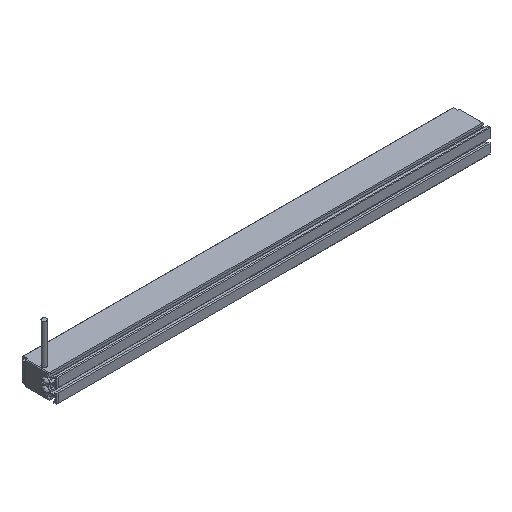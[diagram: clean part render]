
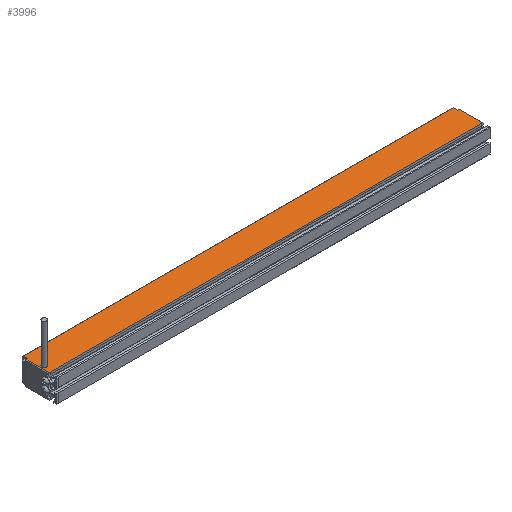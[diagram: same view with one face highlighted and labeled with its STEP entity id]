
A CAD part, isometric view. The second image highlights one B-rep face of the part: STEP entity #3996.
In plain terms, the highlighted planar face has unit normal (0, 0, 1) as drawn and (1, 0, 0) by its records, which use the part's own axes.
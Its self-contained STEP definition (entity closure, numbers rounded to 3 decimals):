
#332=DIRECTION('',(0.,1.,0.));
#333=VECTOR('',#332,17.499);
#334=CARTESIAN_POINT('',(9.,-4.3,-163.));
#335=LINE('',#334,#333);
#502=DIRECTION('',(0.,-1.,0.));
#503=VECTOR('',#502,3.203);
#504=CARTESIAN_POINT('',(9.,16.5,162.));
#505=LINE('',#504,#503);
#514=DIRECTION('',(0.,-1.,0.));
#515=VECTOR('',#514,0.1);
#516=CARTESIAN_POINT('',(9.,-4.2,162.));
#517=LINE('',#516,#515);
#991=DIRECTION('',(0.,0.,1.));
#992=VECTOR('',#991,1.);
#993=CARTESIAN_POINT('',(9.,13.297,162.));
#994=LINE('',#993,#992);
#995=CARTESIAN_POINT('',(9.,2.3,160.25));
#996=DIRECTION('',(1.,0.,0.));
#997=DIRECTION('',(0.,0.,-1.));
#998=AXIS2_PLACEMENT_3D('',#995,#996,#997);
#1000=CARTESIAN_POINT('',(9.,2.3,160.25));
#1001=DIRECTION('',(1.,0.,0.));
#1002=DIRECTION('',(0.,0.,1.));
#1003=AXIS2_PLACEMENT_3D('',#1000,#1001,#1002);
#1005=DIRECTION('',(0.,0.,-1.));
#1006=VECTOR('',#1005,324.);
#1007=CARTESIAN_POINT('',(9.,16.5,162.));
#1008=LINE('',#1007,#1006);
#1009=DIRECTION('',(0.,-1.,0.));
#1010=VECTOR('',#1009,3.301);
#1011=CARTESIAN_POINT('',(9.,16.5,-162.));
#1012=LINE('',#1011,#1010);
#1013=DIRECTION('',(0.,0.,-1.));
#1014=VECTOR('',#1013,1.);
#1015=CARTESIAN_POINT('',(9.,13.199,-162.));
#1016=LINE('',#1015,#1014);
#1017=DIRECTION('',(0.,0.,1.));
#1018=VECTOR('',#1017,325.);
#1019=CARTESIAN_POINT('',(9.,-4.3,-163.));
#1020=LINE('',#1019,#1018);
#1043=DIRECTION('',(0.,0.,-1.));
#1044=VECTOR('',#1043,1.);
#1045=CARTESIAN_POINT('',(9.,-4.2,163.));
#1046=LINE('',#1045,#1044);
#1739=DIRECTION('',(0.,-1.,0.));
#1740=VECTOR('',#1739,17.497);
#1741=CARTESIAN_POINT('',(9.,13.297,163.));
#1742=LINE('',#1741,#1740);
#2177=CARTESIAN_POINT('',(9.,16.5,-162.));
#2179=VERTEX_POINT('',#2177);
#2183=CARTESIAN_POINT('',(9.,-4.3,162.));
#2185=VERTEX_POINT('',#2183);
#2195=CARTESIAN_POINT('',(9.,16.5,162.));
#2196=VERTEX_POINT('',#2195);
#2197=CARTESIAN_POINT('',(9.,2.3,162.));
#2199=VERTEX_POINT('',#2197);
#2203=CARTESIAN_POINT('',(9.,2.3,158.5));
#2204=VERTEX_POINT('',#2203);
#2309=CARTESIAN_POINT('',(9.,13.199,-163.));
#2311=VERTEX_POINT('',#2309);
#2313=CARTESIAN_POINT('',(9.,-4.3,-163.));
#2314=VERTEX_POINT('',#2313);
#2353=CARTESIAN_POINT('',(9.,13.199,-162.));
#2355=VERTEX_POINT('',#2353);
#2514=CARTESIAN_POINT('',(9.,13.297,163.));
#2516=VERTEX_POINT('',#2514);
#2519=CARTESIAN_POINT('',(9.,-4.2,163.));
#2520=VERTEX_POINT('',#2519);
#2651=CARTESIAN_POINT('',(9.,13.297,162.));
#2652=VERTEX_POINT('',#2651);
#2653=CARTESIAN_POINT('',(9.,-4.2,162.));
#2655=VERTEX_POINT('',#2653);
#3969=CARTESIAN_POINT('',(9.,-4.3,-162.));
#3970=DIRECTION('',(1.,0.,0.));
#3971=DIRECTION('',(0.,1.,0.));
#3972=AXIS2_PLACEMENT_3D('',#3969,#3970,#3971);
#3973=PLANE('',#3972);
#3974=ORIENTED_EDGE('',*,*,#3445,.F.);
#3976=ORIENTED_EDGE('',*,*,#3975,.F.);
#3978=ORIENTED_EDGE('',*,*,#3977,.F.);
#3979=ORIENTED_EDGE('',*,*,#3959,.F.);
#3980=ORIENTED_EDGE('',*,*,#3431,.F.);
#3982=ORIENTED_EDGE('',*,*,#3981,.T.);
#3983=ORIENTED_EDGE('',*,*,#2754,.T.);
#3984=ORIENTED_EDGE('',*,*,#3099,.T.);
#3985=ORIENTED_EDGE('',*,*,#3083,.F.);
#3987=ORIENTED_EDGE('',*,*,#3986,.T.);
#3988=EDGE_LOOP('',(#3974,#3976,#3978,#3979,#3980,#3982,#3983,#3984,#3985,
#3987));
#3989=FACE_OUTER_BOUND('',#3988,.F.);
#3991=ORIENTED_EDGE('',*,*,#3990,.T.);
#3993=ORIENTED_EDGE('',*,*,#3992,.T.);
#3994=EDGE_LOOP('',(#3991,#3993));
#3995=FACE_BOUND('',#3994,.F.);
#999=CIRCLE('',#998,1.75);
#1004=CIRCLE('',#1003,1.75);
#2754=EDGE_CURVE('',#2179,#2355,#1012,.T.);
#3083=EDGE_CURVE('',#2314,#2311,#335,.T.);
#3099=EDGE_CURVE('',#2355,#2311,#1016,.T.);
#3431=EDGE_CURVE('',#2196,#2652,#505,.T.);
#3445=EDGE_CURVE('',#2655,#2185,#517,.T.);
#3959=EDGE_CURVE('',#2652,#2516,#994,.T.);
#3975=EDGE_CURVE('',#2520,#2655,#1046,.T.);
#3977=EDGE_CURVE('',#2516,#2520,#1742,.T.);
#3981=EDGE_CURVE('',#2196,#2179,#1008,.T.);
#3986=EDGE_CURVE('',#2314,#2185,#1020,.T.);
#3990=EDGE_CURVE('',#2204,#2199,#999,.T.);
#3992=EDGE_CURVE('',#2199,#2204,#1004,.T.);
#3996=ADVANCED_FACE('',(#3989,#3995),#3973,.T.);
